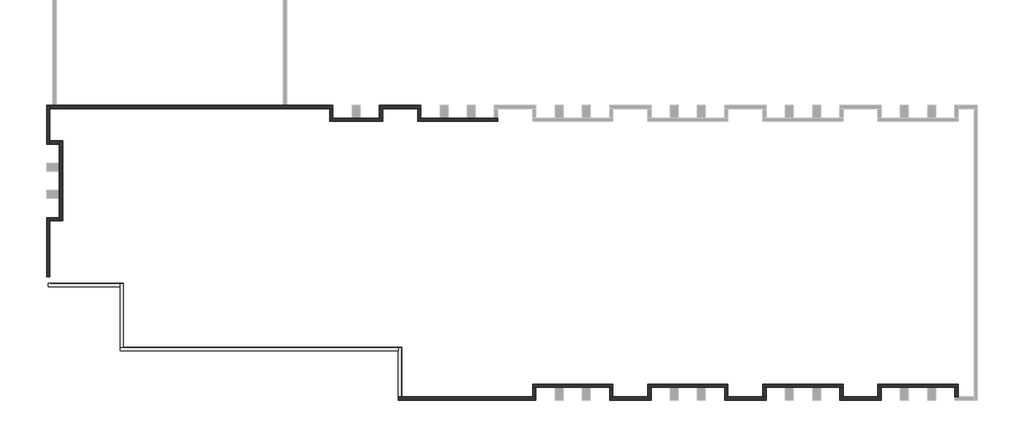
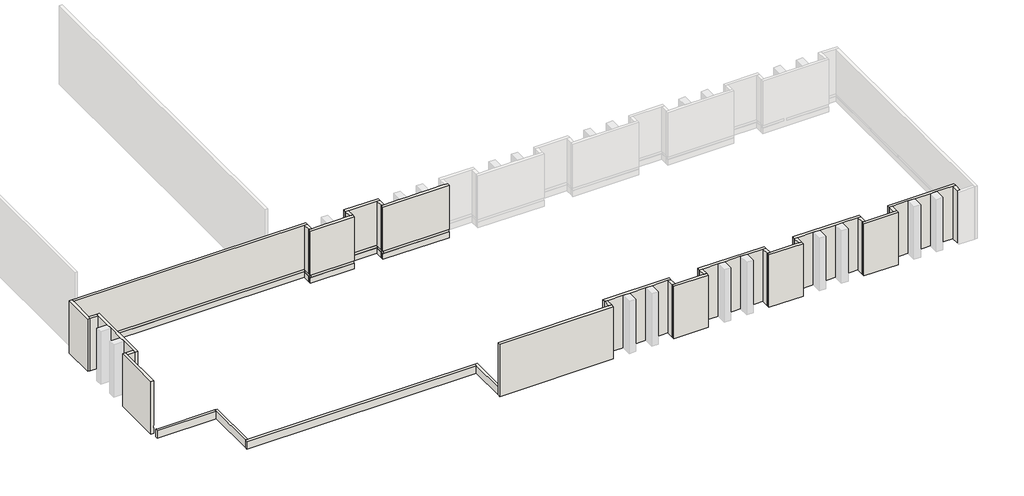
# One storey, part 1 of 2: 32 walls.
"""IFC4 building model written with IfcOpenShell, lengths in millimetres."""

from ifc_helpers import new_model, si_unit, frame, origin, place, context, project, spatial, polyline, outline, extrude, faceted_brep, element, save

model = new_model("IFC4")

# Units and contexts
model_context = context("Model", 3, world=origin())
ifc_project = project(units=[si_unit("LENGTHUNIT", "METRE", prefix="MILLI")], contexts=[model_context])

# Site, building, storey
site = spatial("IfcSite", under=ifc_project)
building = spatial("IfcBuilding", under=site)
storey = spatial("IfcBuildingStorey", under=building, Name="室外地坪", Elevation=-600.0)

# Walls
placement = place(None, origin())
element("IfcWall", 1, ObjectType="F1-15cm-外牆", at=placement, inside=storey, context=model_context, shape_type="Brep", body=[
    faceted_brep([(-27020.2182017, -13881.7926211, -600.0), (-27020.2182017, -10391.7926211, -600.0), (-27020.2182017, -10181.7926211, -600.0), (-27020.2182017, -10181.7926211, 3600.0), (-27020.2182017, -10391.7926211, 3600.0), (-27020.2182017, -13881.7926211, 3600.0), (-27020.2182017, -13881.7926211, 50.0), (-27020.2182017, -10391.7926211, 50.0), (-27020.2182017, -10371.7926211, 50.0), (-27020.2182017, -10371.7926211, -150.0), (-27020.2182017, -10391.7926211, -150.0), (-27020.2182017, -13881.7926211, -150.0), (-27230.2182017, -10181.7926211, -600.0), (-27230.2182017, -13881.7926211, -600.0), (-27230.2182017, -13881.7926211, 3600.0), (-27230.2182017, -10181.7926211, 3600.0), (-27040.2182017, -13881.7926211, -150.0), (-27040.2182017, -13881.7926211, 50.0), (-27040.2182017, -10371.7926211, -150.0), (-27040.2182017, -10371.7926211, 50.0)], [[[0, 1, 2, 3, 4, 5, 6, 7, 8, 9, 10, 11]], [[12, 13, 14, 15]], [[2, 1, 0, 13, 12]], [[5, 4, 3, 15, 14]], [[14, 13, 0, 11, 16, 17, 6, 5]], [[3, 2, 12, 15]], [[9, 18, 16, 11, 10]], [[17, 19, 8, 7, 6]], [[18, 19, 17, 16]], [[19, 18, 9, 8]]]),
])
element("IfcWall", 2, ObjectType="F1-15cm-外牆", at=placement, inside=storey, context=model_context, shape_type="Brep", body=[
    faceted_brep([(-27020.2182017, -3376.7926211, -600.0), (-9525.2182017, -3376.7926211, -600.0), (-9315.2182017, -3376.7926211, -600.0), (-9315.2182017, -3376.7926211, 3600.0), (-9525.2182017, -3376.7926211, 3600.0), (-27020.2182017, -3376.7926211, 3600.0), (-27020.2182017, -3376.7926211, 50.0), (-9525.2182017, -3376.7926211, 50.0), (-9505.2182017, -3376.7926211, 50.0), (-9505.2182017, -3376.7926211, -150.0), (-9525.2182017, -3376.7926211, -150.0), (-27020.2182017, -3376.7926211, -150.0), (-9315.2182017, -3166.7926211, -600.0), (-12200.2182017, -3166.7926211, -600.0), (-12410.2182017, -3166.7926211, -600.0), (-26620.2182017, -3166.7926211, -600.0), (-26830.2182017, -3166.7926211, -600.0), (-27020.2182017, -3166.7926211, -600.0), (-27020.2182017, -3166.7926211, 3600.0), (-9315.2182017, -3166.7926211, 3600.0), (-27020.2182017, -3356.7926211, -150.0), (-27020.2182017, -3356.7926211, 50.0), (-9505.2182017, -3356.7926211, -150.0), (-9505.2182017, -3356.7926211, 50.0)], [[[0, 1, 2, 3, 4, 5, 6, 7, 8, 9, 10, 11]], [[12, 13, 14, 15, 16, 17, 18, 19]], [[2, 1, 0, 17, 16, 15, 14, 13, 12]], [[5, 4, 3, 19, 18]], [[5, 18, 17, 0, 11, 20, 21, 6]], [[3, 2, 12, 19]], [[9, 22, 20, 11, 10]], [[21, 23, 8, 7, 6]], [[22, 23, 21, 20]], [[23, 22, 9, 8]]]),
])
element("IfcWall", 3, ObjectType="F1-15cm-外牆", at=placement, inside=storey, context=model_context, shape_type="Brep", body=[
    faceted_brep([(-26230.2182017, -10391.7926211, -600.0), (-26230.2182017, -5371.7926211, -600.0), (-26230.2182017, -5371.7926211, -150.0), (-26230.2182017, -10391.7926211, -150.0), (-26230.2182017, -5371.7926211, 3600.0), (-26230.2182017, -10391.7926211, 3600.0), (-26230.2182017, -10391.7926211, 50.0), (-26230.2182017, -5371.7926211, 50.0), (-26440.2182017, -5371.7926211, -600.0), (-26440.2182017, -5581.7926211, -600.0), (-26440.2182017, -6781.7926211, -600.0), (-26440.2182017, -7281.7926211, -600.0), (-26440.2182017, -8481.7926211, -600.0), (-26440.2182017, -8981.7926211, -600.0), (-26440.2182017, -10181.7926211, -600.0), (-26440.2182017, -10391.7926211, -600.0), (-26440.2182017, -10391.7926211, -150.0), (-26440.2182017, -10371.7926211, -150.0), (-26440.2182017, -10371.7926211, 50.0), (-26440.2182017, -10391.7926211, 50.0), (-26440.2182017, -10391.7926211, 3600.0), (-26440.2182017, -10181.7926211, 3600.0), (-26440.2182017, -8981.7926211, 3600.0), (-26440.2182017, -8481.7926211, 3600.0), (-26440.2182017, -7281.7926211, 3600.0), (-26440.2182017, -6781.7926211, 3600.0), (-26440.2182017, -5581.7926211, 3600.0), (-26440.2182017, -5371.7926211, 3600.0), (-26440.2182017, -5371.7926211, 50.0), (-26440.2182017, -5391.7926211, 50.0), (-26440.2182017, -5391.7926211, -150.0), (-26440.2182017, -5371.7926211, -150.0), (-26250.2182017, -5391.7926211, -150.0), (-26250.2182017, -10371.7926211, -150.0), (-26250.2182017, -10371.7926211, 50.0), (-26250.2182017, -5391.7926211, 50.0)], [[[0, 1, 2, 3]], [[4, 5, 6, 7]], [[8, 9, 10, 11, 12, 13, 14, 15, 16, 17, 18, 19, 20, 21, 22, 23, 24, 25, 26, 27, 28, 29, 30, 31]], [[1, 0, 15, 14, 13, 12, 11, 10, 9, 8]], [[5, 4, 27, 26, 25, 24, 23, 22, 21, 20]], [[1, 8, 31, 2]], [[27, 4, 7, 28]], [[15, 0, 3, 16]], [[5, 20, 19, 6]], [[32, 33, 17, 16, 3, 2, 31, 30]], [[34, 35, 29, 28, 7, 6, 19, 18]], [[33, 34, 18, 17]], [[33, 32, 35, 34]], [[35, 32, 30, 29]]]),
])
element("IfcWall", 4, ObjectType="F1-15cm-外牆", at=placement, inside=storey, context=model_context, shape_type="Brep", body=[
    faceted_brep([(-27020.2182017, -5581.7926211, -600.0), (-27020.2182017, -5371.7926211, -600.0), (-27020.2182017, -3376.7926211, -600.0), (-27020.2182017, -3166.7926211, -600.0), (-27020.2182017, -3166.7926211, 3600.0), (-27020.2182017, -3376.7926211, 3600.0), (-27020.2182017, -5371.7926211, 3600.0), (-27020.2182017, -5581.7926211, 3600.0), (-27020.2182017, -3356.7926211, -150.0), (-27020.2182017, -3376.7926211, -150.0), (-27020.2182017, -5371.7926211, -150.0), (-27020.2182017, -5391.7926211, -150.0), (-27020.2182017, -5391.7926211, 50.0), (-27020.2182017, -5371.7926211, 50.0), (-27020.2182017, -3376.7926211, 50.0), (-27020.2182017, -3356.7926211, 50.0), (-27230.2182017, -3166.7926211, -600.0), (-27230.2182017, -5581.7926211, -600.0), (-27230.2182017, -5581.7926211, 3600.0), (-27230.2182017, -3166.7926211, 3600.0), (-27040.2182017, -3356.7926211, -150.0), (-27040.2182017, -5391.7926211, -150.0), (-27040.2182017, -5391.7926211, 50.0), (-27040.2182017, -3356.7926211, 50.0)], [[[0, 1, 2, 3, 4, 5, 6, 7], [8, 9, 10, 11, 12, 13, 14, 15]], [[16, 17, 18, 19]], [[3, 2, 1, 0, 17, 16]], [[7, 6, 5, 4, 19, 18]], [[4, 3, 16, 19]], [[0, 7, 18, 17]], [[20, 21, 11, 10, 9, 8]], [[22, 23, 15, 14, 13, 12]], [[21, 22, 12, 11]], [[21, 20, 23, 22]], [[23, 20, 8, 15]]]),
])
element("IfcWall", 5, ObjectType="F1-15cm-外牆", at=placement, inside=storey, context=model_context, shape_type="SweptSolid", body=[
    extrude(outline(polyline([(-5371.7926211, -600.0), (-5581.7926211, -600.0), (-5581.7926211, 3600.0), (-5371.7926211, 3600.0), (-5371.7926211, 50.0), (-5391.7926211, 50.0), (-5391.7926211, -150.0), (-5371.7926211, -150.0), (-5371.7926211, -600.0)])), frame((-27020.2182017, 0.0, 0.0), z_axis=(1.0, 0.0, 0.0), x_axis=(0.0, 1.0, 0.0)), (0.0, 0.0, 1.0), 580.0),
])
element("IfcWall", 6, ObjectType="F1-15cm-外牆", at=placement, inside=storey, context=model_context, shape_type="SweptSolid", body=[
    extrude(outline(polyline([(-10391.7926211, 3600.0), (-10181.7926211, 3600.0), (-10181.7926211, -600.0), (-10391.7926211, -600.0), (-10391.7926211, -150.0), (-10371.7926211, -150.0), (-10371.7926211, 50.0), (-10391.7926211, 50.0), (-10391.7926211, 3600.0)])), frame((-27020.2182017, 0.0, 0.0), z_axis=(1.0, 0.0, 0.0), x_axis=(0.0, 1.0, 0.0)), (0.0, 0.0, 1.0), 580.0),
])
element("IfcWall", 7, ObjectType="F1-15cm-外牆", at=placement, inside=storey, context=model_context, shape_type="Brep", body=[
    faceted_brep([(-4025.2182017, -4166.7926211, -600.0), (994.7817983, -4166.7926211, -600.0), (994.7817983, -4166.7926211, -150.0), (-4025.2182017, -4166.7926211, -150.0), (994.7817983, -4166.7926211, 3600.0), (-4025.2182017, -4166.7926211, 3600.0), (-4025.2182017, -4166.7926211, 50.0), (994.7817983, -4166.7926211, 50.0), (994.7817983, -3956.7926211, -600.0), (784.7817983, -3956.7926211, -600.0), (-415.2182017, -3956.7926211, -600.0), (-915.2182017, -3956.7926211, -600.0), (-2115.2182017, -3956.7926211, -600.0), (-2615.2182017, -3956.7926211, -600.0), (-3815.2182017, -3956.7926211, -600.0), (-4025.2182017, -3956.7926211, -600.0), (-4025.2182017, -3956.7926211, -150.0), (-4005.2182017, -3956.7926211, -150.0), (-4005.2182017, -3956.7926211, 50.0), (-4025.2182017, -3956.7926211, 50.0), (-4025.2182017, -3956.7926211, 3600.0), (-3815.2182017, -3956.7926211, 3600.0), (-2615.2182017, -3956.7926211, 3600.0), (-2115.2182017, -3956.7926211, 3600.0), (-915.2182017, -3956.7926211, 3600.0), (-415.2182017, -3956.7926211, 3600.0), (784.7817983, -3956.7926211, 3600.0), (994.7817983, -3956.7926211, 3600.0), (994.7817983, -3956.7926211, 50.0), (974.7817983, -3956.7926211, 50.0), (974.7817983, -3956.7926211, -150.0), (994.7817983, -3956.7926211, -150.0), (974.7817983, -4146.7926211, -150.0), (-4005.2182017, -4146.7926211, -150.0), (-4005.2182017, -4146.7926211, 50.0), (974.7817983, -4146.7926211, 50.0)], [[[0, 1, 2, 3]], [[4, 5, 6, 7]], [[8, 9, 10, 11, 12, 13, 14, 15, 16, 17, 18, 19, 20, 21, 22, 23, 24, 25, 26, 27, 28, 29, 30, 31]], [[1, 0, 15, 14, 13, 12, 11, 10, 9, 8]], [[5, 4, 27, 26, 25, 24, 23, 22, 21, 20]], [[15, 0, 3, 16]], [[5, 20, 19, 6]], [[1, 8, 31, 2]], [[27, 4, 7, 28]], [[32, 33, 17, 16, 3, 2, 31, 30]], [[34, 35, 29, 28, 7, 6, 19, 18]], [[33, 34, 18, 17]], [[33, 32, 35, 34]], [[35, 32, 30, 29]]]),
])
element("IfcWall", 8, ObjectType="F1-15cm-外牆", at=placement, inside=storey, context=model_context, shape_type="SweptSolid", body=[
    extrude(outline(polyline([(-600.0, -4025.2182017), (-600.0, -3815.2182017), (3600.0, -3815.2182017), (3600.0, -4025.2182017), (50.0, -4025.2182017), (50.0, -4005.2182017), (-150.0, -4005.2182017), (-150.0, -4025.2182017), (-600.0, -4025.2182017)])), frame((0.0, -3956.7926211, 0.0), z_axis=(0.0, 1.0, 0.0), x_axis=(0.0, 0.0, 1.0)), (0.0, 0.0, 1.0), 580.0),
])
element("IfcWall", 9, ObjectType="F1-15cm-外牆", at=placement, inside=storey, context=model_context, shape_type="Brep", body=[
    faceted_brep([(-9525.2182017, -4166.7926211, -600.0), (-6205.2182017, -4166.7926211, -600.0), (-6205.2182017, -4166.7926211, -150.0), (-9525.2182017, -4166.7926211, -150.0), (-6205.2182017, -4166.7926211, 3600.0), (-9525.2182017, -4166.7926211, 3600.0), (-9525.2182017, -4166.7926211, 3450.0), (-9525.2182017, -4166.7926211, 50.0), (-6205.2182017, -4166.7926211, 50.0), (-6205.2182017, -3956.7926211, -600.0), (-6415.2182017, -3956.7926211, -600.0), (-7615.2182017, -3956.7926211, -600.0), (-8115.2182017, -3956.7926211, -600.0), (-9315.2182017, -3956.7926211, -600.0), (-9525.2182017, -3956.7926211, -600.0), (-9525.2182017, -3956.7926211, -150.0), (-9505.2182017, -3956.7926211, -150.0), (-9505.2182017, -3956.7926211, 50.0), (-9525.2182017, -3956.7926211, 50.0), (-9525.2182017, -3956.7926211, 3600.0), (-9315.2182017, -3956.7926211, 3600.0), (-8115.2182017, -3956.7926211, 3600.0), (-7615.2182017, -3956.7926211, 3600.0), (-6415.2182017, -3956.7926211, 3600.0), (-6205.2182017, -3956.7926211, 3600.0), (-6205.2182017, -3956.7926211, 50.0), (-6225.2182017, -3956.7926211, 50.0), (-6225.2182017, -3956.7926211, -150.0), (-6205.2182017, -3956.7926211, -150.0), (-6225.2182017, -4146.7926211, -150.0), (-9505.2182017, -4146.7926211, -150.0), (-9505.2182017, -4146.7926211, 50.0), (-6225.2182017, -4146.7926211, 50.0)], [[[0, 1, 2, 3]], [[4, 5, 6, 7, 8]], [[9, 10, 11, 12, 13, 14, 15, 16, 17, 18, 19, 20, 21, 22, 23, 24, 25, 26, 27, 28]], [[1, 0, 14, 13, 12, 11, 10, 9]], [[5, 4, 24, 23, 22, 21, 20, 19]], [[1, 9, 28, 2]], [[24, 4, 8, 25]], [[14, 0, 3, 15]], [[5, 19, 18, 7, 6]], [[29, 30, 16, 15, 3, 2, 28, 27]], [[31, 32, 26, 25, 8, 7, 18, 17]], [[30, 31, 17, 16]], [[30, 29, 32, 31]], [[32, 29, 27, 26]]]),
])
element("IfcWall", 10, ObjectType="F1-15cm-外牆", at=placement, inside=storey, context=model_context, shape_type="SweptSolid", body=[
    extrude(outline(polyline([(-600.0, -9525.2182017), (-600.0, -9315.2182017), (3600.0, -9315.2182017), (3600.0, -9525.2182017), (50.0, -9525.2182017), (50.0, -9505.2182017), (-150.0, -9505.2182017), (-150.0, -9525.2182017), (-600.0, -9525.2182017)])), frame((0.0, -3956.7926211, 0.0), z_axis=(0.0, 1.0, 0.0), x_axis=(0.0, 0.0, 1.0)), (0.0, 0.0, 1.0), 580.0),
])
element("IfcWall", 11, ObjectType="F1-15cm-外牆", at=placement, inside=storey, context=model_context, shape_type="SweptSolid", body=[
    extrude(outline(polyline([(3600.0, -6205.2182017), (3600.0, -6415.2182017), (-600.0, -6415.2182017), (-600.0, -6205.2182017), (-150.0, -6205.2182017), (-150.0, -6225.2182017), (50.0, -6225.2182017), (50.0, -6205.2182017), (3600.0, -6205.2182017)])), frame((0.0, -3956.7926211, 0.0), z_axis=(0.0, 1.0, 0.0), x_axis=(0.0, 0.0, 1.0)), (0.0, 0.0, 1.0), 580.0),
])
element("IfcWall", 12, ObjectType="F1-15cm-外牆", at=placement, inside=storey, context=model_context, shape_type="Brep", body=[
    faceted_brep([(-6415.2182017, -3376.7926211, -600.0), (-6205.2182017, -3376.7926211, -600.0), (-4025.2182017, -3376.7926211, -600.0), (-3815.2182017, -3376.7926211, -600.0), (-3815.2182017, -3376.7926211, 3600.0), (-4025.2182017, -3376.7926211, 3600.0), (-6205.2182017, -3376.7926211, 3600.0), (-6415.2182017, -3376.7926211, 3600.0), (-4005.2182017, -3376.7926211, -150.0), (-4025.2182017, -3376.7926211, -150.0), (-6205.2182017, -3376.7926211, -150.0), (-6225.2182017, -3376.7926211, -150.0), (-6225.2182017, -3376.7926211, 50.0), (-6205.2182017, -3376.7926211, 50.0), (-4025.2182017, -3376.7926211, 50.0), (-4005.2182017, -3376.7926211, 50.0), (-3815.2182017, -3166.7926211, -600.0), (-6415.2182017, -3166.7926211, -600.0), (-6415.2182017, -3166.7926211, 3600.0), (-3815.2182017, -3166.7926211, 3600.0), (-4005.2182017, -3356.7926211, -150.0), (-6225.2182017, -3356.7926211, -150.0), (-6225.2182017, -3356.7926211, 50.0), (-4005.2182017, -3356.7926211, 50.0)], [[[0, 1, 2, 3, 4, 5, 6, 7], [8, 9, 10, 11, 12, 13, 14, 15]], [[16, 17, 18, 19]], [[3, 2, 1, 0, 17, 16]], [[7, 6, 5, 4, 19, 18]], [[0, 7, 18, 17]], [[4, 3, 16, 19]], [[20, 21, 11, 10, 9, 8]], [[22, 23, 15, 14, 13, 12]], [[21, 22, 12, 11]], [[21, 20, 23, 22]], [[23, 20, 8, 15]]]),
])
element("IfcWall", 13, ObjectType="F1-15cm-外牆", at=placement, inside=storey, context=model_context, shape_type="Brep", body=[
    faceted_brep([(24774.7817983, -20806.7926211, -600.0), (24984.7817983, -20806.7926211, -600.0), (26184.7817983, -20806.7926211, -600.0), (26684.7817983, -20806.7926211, -600.0), (27884.7817983, -20806.7926211, -600.0), (28384.7817983, -20806.7926211, -600.0), (29584.7817983, -20806.7926211, -600.0), (29794.7817983, -20806.7926211, -600.0), (29794.7817983, -20806.7926211, -150.0), (29774.7817983, -20806.7926211, -150.0), (29774.7817983, -20806.7926211, 50.0), (29794.7817983, -20806.7926211, 50.0), (29794.7817983, -20806.7926211, 3600.0), (29584.7817983, -20806.7926211, 3600.0), (28384.7817983, -20806.7926211, 3600.0), (27884.7817983, -20806.7926211, 3600.0), (26684.7817983, -20806.7926211, 3600.0), (26184.7817983, -20806.7926211, 3600.0), (24984.7817983, -20806.7926211, 3600.0), (24774.7817983, -20806.7926211, 3600.0), (24774.7817983, -20806.7926211, 50.0), (24794.7817983, -20806.7926211, 50.0), (24794.7817983, -20806.7926211, -150.0), (24774.7817983, -20806.7926211, -150.0), (29794.7817983, -20596.7926211, -600.0), (24774.7817983, -20596.7926211, -600.0), (24774.7817983, -20596.7926211, -150.0), (29794.7817983, -20596.7926211, -150.0), (24774.7817983, -20596.7926211, 3600.0), (29794.7817983, -20596.7926211, 3600.0), (29794.7817983, -20596.7926211, 50.0), (24774.7817983, -20596.7926211, 50.0), (24794.7817983, -20616.7926211, -150.0), (29774.7817983, -20616.7926211, -150.0), (29774.7817983, -20616.7926211, 50.0), (24794.7817983, -20616.7926211, 50.0)], [[[0, 1, 2, 3, 4, 5, 6, 7, 8, 9, 10, 11, 12, 13, 14, 15, 16, 17, 18, 19, 20, 21, 22, 23]], [[24, 25, 26, 27]], [[28, 29, 30, 31]], [[7, 6, 5, 4, 3, 2, 1, 0, 25, 24]], [[19, 18, 17, 16, 15, 14, 13, 12, 29, 28]], [[25, 0, 23, 26]], [[19, 28, 31, 20]], [[7, 24, 27, 8]], [[29, 12, 11, 30]], [[32, 33, 9, 8, 27, 26, 23, 22]], [[34, 35, 21, 20, 31, 30, 11, 10]], [[33, 34, 10, 9]], [[33, 32, 35, 34]], [[35, 32, 22, 21]]]),
])
element("IfcWall", 14, ObjectType="F1-15cm-外牆", at=placement, inside=storey, context=model_context, shape_type="SweptSolid", body=[
    extrude(outline(polyline([(-600.0, 24984.7817983), (3600.0, 24984.7817983), (3600.0, 24774.7817983), (50.0, 24774.7817983), (50.0, 24794.7817983), (-150.0, 24794.7817983), (-150.0, 24774.7817983), (-600.0, 24774.7817983), (-600.0, 24984.7817983)])), frame((0.0, -21386.7926211, 0.0), z_axis=(0.0, 1.0, 0.0), x_axis=(0.0, 0.0, 1.0)), (0.0, 0.0, 1.0), 580.0),
])
element("IfcWall", 15, ObjectType="F1-15cm-外牆", at=placement, inside=storey, context=model_context, shape_type="SweptSolid", body=[
    extrude(outline(polyline([(3600.0, 29584.7817983), (-600.0, 29584.7817983), (-600.0, 29794.7817983), (-150.0, 29794.7817983), (-150.0, 29774.7817983), (50.0, 29774.7817983), (50.0, 29794.7817983), (3600.0, 29794.7817983), (3600.0, 29584.7817983)])), frame((0.0, -21386.7926211, 0.0), z_axis=(0.0, 1.0, 0.0), x_axis=(0.0, 0.0, 1.0)), (0.0, 0.0, 1.0), 580.0),
])
element("IfcWall", 16, ObjectType="F1-15cm-外牆", at=placement, inside=storey, context=model_context, shape_type="Brep", body=[
    faceted_brep([(17574.7817983, -20806.7926211, -600.0), (17784.7817983, -20806.7926211, -600.0), (18984.7817983, -20806.7926211, -600.0), (19484.7817983, -20806.7926211, -600.0), (20684.7817983, -20806.7926211, -600.0), (21184.7817983, -20806.7926211, -600.0), (22384.7817983, -20806.7926211, -600.0), (22594.7817983, -20806.7926211, -600.0), (22594.7817983, -20806.7926211, -150.0), (22574.7817983, -20806.7926211, -150.0), (22574.7817983, -20806.7926211, 50.0), (22594.7817983, -20806.7926211, 50.0), (22594.7817983, -20806.7926211, 3600.0), (22384.7817983, -20806.7926211, 3600.0), (21184.7817983, -20806.7926211, 3600.0), (20684.7817983, -20806.7926211, 3600.0), (19484.7817983, -20806.7926211, 3600.0), (18984.7817983, -20806.7926211, 3600.0), (17784.7817983, -20806.7926211, 3600.0), (17574.7817983, -20806.7926211, 3600.0), (17574.7817983, -20806.7926211, 50.0), (17594.7817983, -20806.7926211, 50.0), (17594.7817983, -20806.7926211, -150.0), (17574.7817983, -20806.7926211, -150.0), (22594.7817983, -20596.7926211, -600.0), (17574.7817983, -20596.7926211, -600.0), (17574.7817983, -20596.7926211, -150.0), (22594.7817983, -20596.7926211, -150.0), (17574.7817983, -20596.7926211, 3600.0), (22594.7817983, -20596.7926211, 3600.0), (22594.7817983, -20596.7926211, 50.0), (17574.7817983, -20596.7926211, 50.0), (17594.7817983, -20616.7926211, -150.0), (22574.7817983, -20616.7926211, -150.0), (22574.7817983, -20616.7926211, 50.0), (17594.7817983, -20616.7926211, 50.0)], [[[0, 1, 2, 3, 4, 5, 6, 7, 8, 9, 10, 11, 12, 13, 14, 15, 16, 17, 18, 19, 20, 21, 22, 23]], [[24, 25, 26, 27]], [[28, 29, 30, 31]], [[7, 6, 5, 4, 3, 2, 1, 0, 25, 24]], [[19, 18, 17, 16, 15, 14, 13, 12, 29, 28]], [[25, 0, 23, 26]], [[19, 28, 31, 20]], [[7, 24, 27, 8]], [[29, 12, 11, 30]], [[32, 33, 9, 8, 27, 26, 23, 22]], [[34, 35, 21, 20, 31, 30, 11, 10]], [[33, 34, 10, 9]], [[33, 32, 35, 34]], [[35, 32, 22, 21]]]),
])
element("IfcWall", 17, ObjectType="F1-15cm-外牆", at=placement, inside=storey, context=model_context, shape_type="SweptSolid", body=[
    extrude(outline(polyline([(-600.0, 17784.7817983), (3600.0, 17784.7817983), (3600.0, 17574.7817983), (50.0, 17574.7817983), (50.0, 17594.7817983), (-150.0, 17594.7817983), (-150.0, 17574.7817983), (-600.0, 17574.7817983), (-600.0, 17784.7817983)])), frame((0.0, -21386.7926211, 0.0), z_axis=(0.0, 1.0, 0.0), x_axis=(0.0, 0.0, 1.0)), (0.0, 0.0, 1.0), 580.0),
])
element("IfcWall", 18, ObjectType="F1-15cm-外牆", at=placement, inside=storey, context=model_context, shape_type="SweptSolid", body=[
    extrude(outline(polyline([(3600.0, 22384.7817983), (-600.0, 22384.7817983), (-600.0, 22594.7817983), (-150.0, 22594.7817983), (-150.0, 22574.7817983), (50.0, 22574.7817983), (50.0, 22594.7817983), (3600.0, 22594.7817983), (3600.0, 22384.7817983)])), frame((0.0, -21386.7926211, 0.0), z_axis=(0.0, 1.0, 0.0), x_axis=(0.0, 0.0, 1.0)), (0.0, 0.0, 1.0), 580.0),
])
element("IfcWall", 19, ObjectType="F1-15cm-外牆", at=placement, inside=storey, context=model_context, shape_type="Brep", body=[
    faceted_brep([(10374.7817983, -20806.7926211, -600.0), (10584.7817983, -20806.7926211, -600.0), (11784.7817983, -20806.7926211, -600.0), (12284.7817983, -20806.7926211, -600.0), (13484.7817983, -20806.7926211, -600.0), (13984.7817983, -20806.7926211, -600.0), (15184.7817983, -20806.7926211, -600.0), (15394.7817983, -20806.7926211, -600.0), (15394.7817983, -20806.7926211, -150.0), (15374.7817983, -20806.7926211, -150.0), (15374.7817983, -20806.7926211, 50.0), (15394.7817983, -20806.7926211, 50.0), (15394.7817983, -20806.7926211, 3600.0), (15184.7817983, -20806.7926211, 3600.0), (13984.7817983, -20806.7926211, 3600.0), (13484.7817983, -20806.7926211, 3600.0), (12284.7817983, -20806.7926211, 3600.0), (11784.7817983, -20806.7926211, 3600.0), (10584.7817983, -20806.7926211, 3600.0), (10374.7817983, -20806.7926211, 3600.0), (10374.7817983, -20806.7926211, 50.0), (10394.7817983, -20806.7926211, 50.0), (10394.7817983, -20806.7926211, -150.0), (10374.7817983, -20806.7926211, -150.0), (15394.7817983, -20596.7926211, -600.0), (10374.7817983, -20596.7926211, -600.0), (10374.7817983, -20596.7926211, -150.0), (15394.7817983, -20596.7926211, -150.0), (10374.7817983, -20596.7926211, 3600.0), (15394.7817983, -20596.7926211, 3600.0), (15394.7817983, -20596.7926211, 50.0), (10374.7817983, -20596.7926211, 50.0), (10394.7817983, -20616.7926211, -150.0), (15374.7817983, -20616.7926211, -150.0), (15374.7817983, -20616.7926211, 50.0), (10394.7817983, -20616.7926211, 50.0)], [[[0, 1, 2, 3, 4, 5, 6, 7, 8, 9, 10, 11, 12, 13, 14, 15, 16, 17, 18, 19, 20, 21, 22, 23]], [[24, 25, 26, 27]], [[28, 29, 30, 31]], [[7, 6, 5, 4, 3, 2, 1, 0, 25, 24]], [[19, 18, 17, 16, 15, 14, 13, 12, 29, 28]], [[25, 0, 23, 26]], [[19, 28, 31, 20]], [[7, 24, 27, 8]], [[29, 12, 11, 30]], [[32, 33, 9, 8, 27, 26, 23, 22]], [[34, 35, 21, 20, 31, 30, 11, 10]], [[33, 34, 10, 9]], [[33, 32, 35, 34]], [[35, 32, 22, 21]]]),
])
element("IfcWall", 20, ObjectType="F1-15cm-外牆", at=placement, inside=storey, context=model_context, shape_type="SweptSolid", body=[
    extrude(outline(polyline([(-600.0, 10584.7817983), (3600.0, 10584.7817983), (3600.0, 10374.7817983), (50.0, 10374.7817983), (50.0, 10394.7817983), (-150.0, 10394.7817983), (-150.0, 10374.7817983), (-600.0, 10374.7817983), (-600.0, 10584.7817983)])), frame((0.0, -21386.7926211, 0.0), z_axis=(0.0, 1.0, 0.0), x_axis=(0.0, 0.0, 1.0)), (0.0, 0.0, 1.0), 580.0),
])
element("IfcWall", 21, ObjectType="F1-15cm-外牆", at=placement, inside=storey, context=model_context, shape_type="SweptSolid", body=[
    extrude(outline(polyline([(3600.0, 15184.7817983), (-600.0, 15184.7817983), (-600.0, 15394.7817983), (-150.0, 15394.7817983), (-150.0, 15374.7817983), (50.0, 15374.7817983), (50.0, 15394.7817983), (3600.0, 15394.7817983), (3600.0, 15184.7817983)])), frame((0.0, -21386.7926211, 0.0), z_axis=(0.0, 1.0, 0.0), x_axis=(0.0, 0.0, 1.0)), (0.0, 0.0, 1.0), 580.0),
])
element("IfcWall", 22, ObjectType="F1-15cm-外牆", at=placement, inside=storey, context=model_context, shape_type="Brep", body=[
    faceted_brep([(3174.7817983, -20806.7926211, -600.0), (3384.7817983, -20806.7926211, -600.0), (4584.7817983, -20806.7926211, -600.0), (5084.7817983, -20806.7926211, -600.0), (6284.7817983, -20806.7926211, -600.0), (6784.7817983, -20806.7926211, -600.0), (7984.7817983, -20806.7926211, -600.0), (8194.7817983, -20806.7926211, -600.0), (8194.7817983, -20806.7926211, -150.0), (8174.7817983, -20806.7926211, -150.0), (8174.7817983, -20806.7926211, 50.0), (8194.7817983, -20806.7926211, 50.0), (8194.7817983, -20806.7926211, 3600.0), (7984.7817983, -20806.7926211, 3600.0), (6784.7817983, -20806.7926211, 3600.0), (6284.7817983, -20806.7926211, 3600.0), (5084.7817983, -20806.7926211, 3600.0), (4584.7817983, -20806.7926211, 3600.0), (3384.7817983, -20806.7926211, 3600.0), (3174.7817983, -20806.7926211, 3600.0), (3174.7817983, -20806.7926211, 50.0), (3194.7817983, -20806.7926211, 50.0), (3194.7817983, -20806.7926211, -150.0), (3174.7817983, -20806.7926211, -150.0), (8194.7817983, -20596.7926211, -600.0), (3174.7817983, -20596.7926211, -600.0), (3174.7817983, -20596.7926211, -150.0), (8194.7817983, -20596.7926211, -150.0), (3174.7817983, -20596.7926211, 3600.0), (8194.7817983, -20596.7926211, 3600.0), (8194.7817983, -20596.7926211, 50.0), (3174.7817983, -20596.7926211, 50.0), (3194.7817983, -20616.7926211, -150.0), (8174.7817983, -20616.7926211, -150.0), (8174.7817983, -20616.7926211, 50.0), (3194.7817983, -20616.7926211, 50.0)], [[[0, 1, 2, 3, 4, 5, 6, 7, 8, 9, 10, 11, 12, 13, 14, 15, 16, 17, 18, 19, 20, 21, 22, 23]], [[24, 25, 26, 27]], [[28, 29, 30, 31]], [[7, 6, 5, 4, 3, 2, 1, 0, 25, 24]], [[19, 18, 17, 16, 15, 14, 13, 12, 29, 28]], [[25, 0, 23, 26]], [[19, 28, 31, 20]], [[7, 24, 27, 8]], [[29, 12, 11, 30]], [[32, 33, 9, 8, 27, 26, 23, 22]], [[34, 35, 21, 20, 31, 30, 11, 10]], [[33, 34, 10, 9]], [[33, 32, 35, 34]], [[35, 32, 22, 21]]]),
])
element("IfcWall", 23, ObjectType="F1-15cm-外牆", at=placement, inside=storey, context=model_context, shape_type="SweptSolid", body=[
    extrude(outline(polyline([(-600.0, 3384.7817983), (3600.0, 3384.7817983), (3600.0, 3174.7817983), (50.0, 3174.7817983), (50.0, 3194.7817983), (-150.0, 3194.7817983), (-150.0, 3174.7817983), (-600.0, 3174.7817983), (-600.0, 3384.7817983)])), frame((0.0, -21386.7926211, 0.0), z_axis=(0.0, 1.0, 0.0), x_axis=(0.0, 0.0, 1.0)), (0.0, 0.0, 1.0), 580.0),
])
element("IfcWall", 24, ObjectType="F1-15cm-外牆", at=placement, inside=storey, context=model_context, shape_type="SweptSolid", body=[
    extrude(outline(polyline([(3600.0, 7984.7817983), (-600.0, 7984.7817983), (-600.0, 8194.7817983), (-150.0, 8194.7817983), (-150.0, 8174.7817983), (50.0, 8174.7817983), (50.0, 8194.7817983), (3600.0, 8194.7817983), (3600.0, 7984.7817983)])), frame((0.0, -21386.7926211, 0.0), z_axis=(0.0, 1.0, 0.0), x_axis=(0.0, 0.0, 1.0)), (0.0, 0.0, 1.0), 580.0),
])
element("IfcWall", 25, ObjectType="F1-15cm-外牆", at=placement, inside=storey, context=model_context, shape_type="Brep", body=[
    faceted_brep([(3384.7817983, -21386.7926211, -600.0), (3174.7817983, -21386.7926211, -600.0), (-5020.2182017, -21386.7926211, -600.0), (-5230.2182017, -21386.7926211, -600.0), (-5230.2182017, -21386.7926211, 0.0), (-5230.2182017, -21386.7926211, 3600.0), (-5125.2182017, -21386.7926211, 3600.0), (3174.7817983, -21386.7926211, 3600.0), (3384.7817983, -21386.7926211, 3600.0), (-5040.2182017, -21386.7926211, -150.0), (-5020.2182017, -21386.7926211, -150.0), (3174.7817983, -21386.7926211, -150.0), (3194.7817983, -21386.7926211, -150.0), (3194.7817983, -21386.7926211, 50.0), (3174.7817983, -21386.7926211, 50.0), (-5040.2182017, -21386.7926211, 50.0), (-5040.2182017, -21386.7926211, 0.0), (-5230.2182017, -21596.7926211, -600.0), (3384.7817983, -21596.7926211, -600.0), (3384.7817983, -21596.7926211, 3600.0), (-5230.2182017, -21596.7926211, 3600.0), (-5040.2182017, -21406.7926211, -150.0), (3194.7817983, -21406.7926211, -150.0), (3194.7817983, -21406.7926211, 50.0), (-5040.2182017, -21406.7926211, 50.0)], [[[0, 1, 2, 3, 4, 5, 6, 7, 8], [9, 10, 11, 12, 13, 14, 15, 16]], [[17, 18, 19, 20]], [[3, 2, 1, 0, 18, 17]], [[8, 7, 6, 5, 20, 19]], [[0, 8, 19, 18]], [[5, 4, 3, 17, 20]], [[21, 22, 12, 11, 10, 9]], [[23, 24, 15, 14, 13]], [[22, 23, 13, 12]], [[22, 21, 24, 23]], [[24, 21, 9, 16, 15]]]),
])
element("IfcWall", 26, ObjectType="F1-15cm-外牆", at=placement, inside=storey, context=model_context, shape_type="Brep", body=[
    faceted_brep([(10584.7817983, -21386.7926211, -600.0), (10374.7817983, -21386.7926211, -600.0), (8194.7817983, -21386.7926211, -600.0), (7984.7817983, -21386.7926211, -600.0), (7984.7817983, -21386.7926211, 3600.0), (8194.7817983, -21386.7926211, 3600.0), (10374.7817983, -21386.7926211, 3600.0), (10584.7817983, -21386.7926211, 3600.0), (8174.7817983, -21386.7926211, -150.0), (8194.7817983, -21386.7926211, -150.0), (10374.7817983, -21386.7926211, -150.0), (10394.7817983, -21386.7926211, -150.0), (10394.7817983, -21386.7926211, 50.0), (10374.7817983, -21386.7926211, 50.0), (8194.7817983, -21386.7926211, 50.0), (8174.7817983, -21386.7926211, 50.0), (7984.7817983, -21596.7926211, -600.0), (10584.7817983, -21596.7926211, -600.0), (10584.7817983, -21596.7926211, 3600.0), (7984.7817983, -21596.7926211, 3600.0), (8174.7817983, -21406.7926211, -150.0), (10394.7817983, -21406.7926211, -150.0), (10394.7817983, -21406.7926211, 50.0), (8174.7817983, -21406.7926211, 50.0)], [[[0, 1, 2, 3, 4, 5, 6, 7], [8, 9, 10, 11, 12, 13, 14, 15]], [[16, 17, 18, 19]], [[3, 2, 1, 0, 17, 16]], [[7, 6, 5, 4, 19, 18]], [[4, 3, 16, 19]], [[0, 7, 18, 17]], [[20, 21, 11, 10, 9, 8]], [[22, 23, 15, 14, 13, 12]], [[21, 22, 12, 11]], [[21, 20, 23, 22]], [[23, 20, 8, 15]]]),
])
element("IfcWall", 27, ObjectType="F1-15cm-外牆", at=placement, inside=storey, context=model_context, shape_type="Brep", body=[
    faceted_brep([(17784.7817983, -21386.7926211, -600.0), (17574.7817983, -21386.7926211, -600.0), (15394.7817983, -21386.7926211, -600.0), (15184.7817983, -21386.7926211, -600.0), (15184.7817983, -21386.7926211, 3600.0), (15394.7817983, -21386.7926211, 3600.0), (17574.7817983, -21386.7926211, 3600.0), (17784.7817983, -21386.7926211, 3600.0), (15374.7817983, -21386.7926211, -150.0), (15394.7817983, -21386.7926211, -150.0), (17574.7817983, -21386.7926211, -150.0), (17594.7817983, -21386.7926211, -150.0), (17594.7817983, -21386.7926211, 50.0), (17574.7817983, -21386.7926211, 50.0), (15394.7817983, -21386.7926211, 50.0), (15374.7817983, -21386.7926211, 50.0), (15184.7817983, -21596.7926211, -600.0), (17784.7817983, -21596.7926211, -600.0), (17784.7817983, -21596.7926211, 3600.0), (15184.7817983, -21596.7926211, 3600.0), (15374.7817983, -21406.7926211, -150.0), (17594.7817983, -21406.7926211, -150.0), (17594.7817983, -21406.7926211, 50.0), (15374.7817983, -21406.7926211, 50.0)], [[[0, 1, 2, 3, 4, 5, 6, 7], [8, 9, 10, 11, 12, 13, 14, 15]], [[16, 17, 18, 19]], [[3, 2, 1, 0, 17, 16]], [[7, 6, 5, 4, 19, 18]], [[4, 3, 16, 19]], [[0, 7, 18, 17]], [[20, 21, 11, 10, 9, 8]], [[22, 23, 15, 14, 13, 12]], [[21, 22, 12, 11]], [[21, 20, 23, 22]], [[23, 20, 8, 15]]]),
])
element("IfcWall", 28, ObjectType="F1-15cm-外牆", at=placement, inside=storey, context=model_context, shape_type="Brep", body=[
    faceted_brep([(24984.7817983, -21386.7926211, -600.0), (24774.7817983, -21386.7926211, -600.0), (22594.7817983, -21386.7926211, -600.0), (22384.7817983, -21386.7926211, -600.0), (22384.7817983, -21386.7926211, 3600.0), (22594.7817983, -21386.7926211, 3600.0), (24774.7817983, -21386.7926211, 3600.0), (24984.7817983, -21386.7926211, 3600.0), (22574.7817983, -21386.7926211, -150.0), (22594.7817983, -21386.7926211, -150.0), (24774.7817983, -21386.7926211, -150.0), (24794.7817983, -21386.7926211, -150.0), (24794.7817983, -21386.7926211, 50.0), (24774.7817983, -21386.7926211, 50.0), (22594.7817983, -21386.7926211, 50.0), (22574.7817983, -21386.7926211, 50.0), (22384.7817983, -21596.7926211, -600.0), (24984.7817983, -21596.7926211, -600.0), (24984.7817983, -21596.7926211, 3600.0), (22384.7817983, -21596.7926211, 3600.0), (22574.7817983, -21406.7926211, -150.0), (24794.7817983, -21406.7926211, -150.0), (24794.7817983, -21406.7926211, 50.0), (22574.7817983, -21406.7926211, 50.0)], [[[0, 1, 2, 3, 4, 5, 6, 7], [8, 9, 10, 11, 12, 13, 14, 15]], [[16, 17, 18, 19]], [[3, 2, 1, 0, 17, 16]], [[7, 6, 5, 4, 19, 18]], [[4, 3, 16, 19]], [[0, 7, 18, 17]], [[20, 21, 11, 10, 9, 8]], [[22, 23, 15, 14, 13, 12]], [[21, 22, 12, 11]], [[21, 20, 23, 22]], [[23, 20, 8, 15]]]),
])
element("IfcWall", 29, ObjectType="F1-15cm-外牆", at=placement, inside=storey, context=model_context, shape_type="Brep", body=[
    faceted_brep([(-5020.2182017, -21386.7926211, -600.0), (-5020.2182017, -18286.7926211, -600.0), (-5020.2182017, -18286.7926211, -150.0), (-5020.2182017, -21386.7926211, -150.0), (-5230.2182017, -18286.7926211, -600.0), (-5230.2182017, -18496.7926211, -600.0), (-5230.2182017, -21386.7926211, -600.0), (-5230.2182017, -21386.7926211, 0.0), (-5230.2182017, -18496.7926211, 0.0), (-5230.2182017, -18306.7926211, 0.0), (-5230.2182017, -18306.7926211, -150.0), (-5230.2182017, -18286.7926211, -150.0), (-5040.2182017, -21386.7926211, 0.0), (-5040.2182017, -18306.7926211, 0.0), (-5040.2182017, -21386.7926211, -150.0), (-5040.2182017, -18306.7926211, -150.0)], [[[0, 1, 2, 3]], [[4, 5, 6, 7, 8, 9, 10, 11]], [[1, 0, 6, 5, 4]], [[9, 8, 7, 12, 13]], [[1, 4, 11, 2]], [[7, 6, 0, 3, 14, 12]], [[10, 15, 14, 3, 2, 11]], [[14, 15, 13, 12]], [[15, 10, 9, 13]]]),
])
element("IfcWall", 30, ObjectType="F1-15cm-外牆", at=placement, inside=storey, context=model_context, shape_type="Brep", body=[
    faceted_brep([(-5230.2182017, -18286.7926211, -600.0), (-22420.2182017, -18286.7926211, -600.0), (-22630.2182017, -18286.7926211, -600.0), (-22630.2182017, -18286.7926211, 0.0), (-22440.2182017, -18286.7926211, 0.0), (-22440.2182017, -18286.7926211, -150.0), (-5230.2182017, -18286.7926211, -150.0), (-22630.2182017, -18496.7926211, -600.0), (-5230.2182017, -18496.7926211, -600.0), (-5230.2182017, -18496.7926211, 0.0), (-22630.2182017, -18496.7926211, 0.0), (-5230.2182017, -18306.7926211, 0.0), (-22440.2182017, -18306.7926211, 0.0), (-5230.2182017, -18306.7926211, -150.0), (-22440.2182017, -18306.7926211, -150.0)], [[[0, 1, 2, 3, 4, 5, 6]], [[7, 8, 9, 10]], [[2, 1, 0, 8, 7]], [[10, 9, 11, 12, 4, 3]], [[9, 8, 0, 6, 13, 11]], [[3, 2, 7, 10]], [[5, 14, 13, 6]], [[13, 14, 12, 11]], [[14, 5, 4, 12]]]),
])
element("IfcWall", 31, ObjectType="F1-15cm-外牆", at=placement, inside=storey, context=model_context, shape_type="Brep", body=[
    faceted_brep([(-22420.2182017, -18286.7926211, -600.0), (-22420.2182017, -14286.7926211, -600.0), (-22420.2182017, -14286.7926211, -150.0), (-22420.2182017, -18286.7926211, -150.0), (-22630.2182017, -14286.7926211, -600.0), (-22630.2182017, -14496.7926211, -600.0), (-22630.2182017, -18286.7926211, -600.0), (-22630.2182017, -18286.7926211, 0.0), (-22630.2182017, -14496.7926211, 0.0), (-22630.2182017, -14306.7926211, 0.0), (-22630.2182017, -14306.7926211, -150.0), (-22630.2182017, -14286.7926211, -150.0), (-22440.2182017, -18286.7926211, 0.0), (-22440.2182017, -14306.7926211, 0.0), (-22440.2182017, -18286.7926211, -150.0), (-22440.2182017, -14306.7926211, -150.0)], [[[0, 1, 2, 3]], [[4, 5, 6, 7, 8, 9, 10, 11]], [[1, 0, 6, 5, 4]], [[9, 8, 7, 12, 13]], [[7, 6, 0, 3, 14, 12]], [[1, 4, 11, 2]], [[10, 15, 14, 3, 2, 11]], [[14, 15, 13, 12]], [[15, 10, 9, 13]]]),
])
element("IfcWall", 32, ObjectType="F1-15cm-外牆", at=placement, inside=storey, context=model_context, shape_type="Brep", body=[
    faceted_brep([(-22630.2182017, -14286.7926211, -600.0), (-27115.2182017, -14286.7926211, -600.0), (-27115.2182017, -14286.7926211, 0.0), (-27040.2182017, -14286.7926211, 0.0), (-27040.2182017, -14286.7926211, -150.0), (-22630.2182017, -14286.7926211, -150.0), (-27115.2182017, -14496.7926211, -600.0), (-22630.2182017, -14496.7926211, -600.0), (-22630.2182017, -14496.7926211, 0.0), (-27115.2182017, -14496.7926211, 0.0), (-22630.2182017, -14306.7926211, 0.0), (-27040.2182017, -14306.7926211, 0.0), (-22630.2182017, -14306.7926211, -150.0), (-27040.2182017, -14306.7926211, -150.0)], [[[0, 1, 2, 3, 4, 5]], [[6, 7, 8, 9]], [[1, 0, 7, 6]], [[2, 1, 6, 9]], [[9, 8, 10, 11, 3, 2]], [[8, 7, 0, 5, 12, 10]], [[13, 12, 5, 4]], [[13, 4, 3, 11]], [[12, 13, 11, 10]]]),
])

save(model, "model.ifc")
